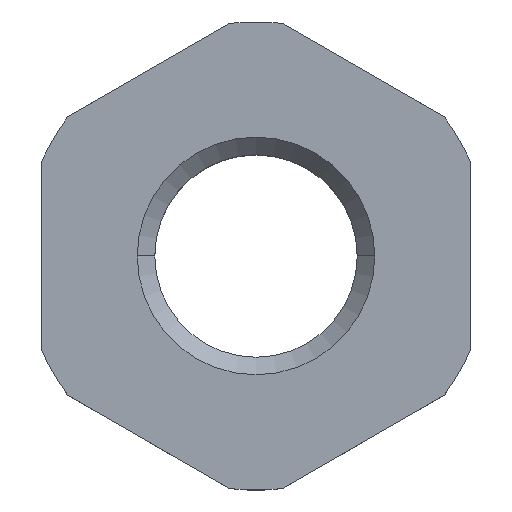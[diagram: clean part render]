
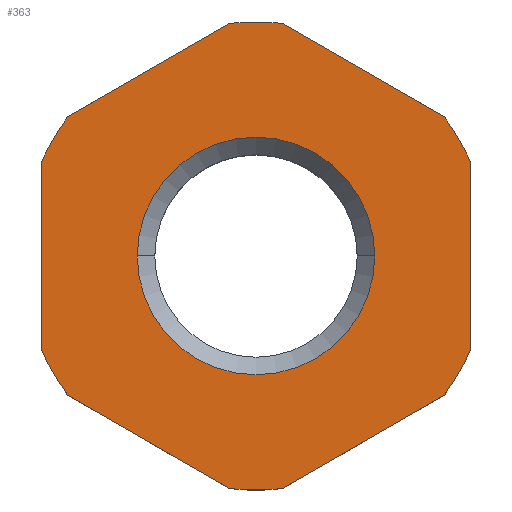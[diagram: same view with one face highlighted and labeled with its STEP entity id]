
A CAD part, top view. The second image highlights one B-rep face of the part: STEP entity #363.
In plain terms, the highlighted planar face has unit normal (0, 0, 1).
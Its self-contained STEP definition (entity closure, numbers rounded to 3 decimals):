
#1 = EDGE_CURVE ( 'NONE', #4, #362, #817, .T. ) ;
#3 = ORIENTED_EDGE ( 'NONE', *, *, #1, .T. ) ;
#4 = VERTEX_POINT ( 'NONE', #811 ) ;
#5 = ORIENTED_EDGE ( 'NONE', *, *, #162, .T. ) ;
#6 = ORIENTED_EDGE ( 'NONE', *, *, #159, .T. ) ;
#10 = VERTEX_POINT ( 'NONE', #804 ) ;
#15 = EDGE_CURVE ( 'NONE', #362, #193, #733, .T. ) ;
#16 = ORIENTED_EDGE ( 'NONE', *, *, #15, .T. ) ;
#17 = EDGE_CURVE ( 'NONE', #193, #194, #729, .T. ) ;
#19 = EDGE_CURVE ( 'NONE', #61, #28, #724, .T. ) ;
#21 = ORIENTED_EDGE ( 'NONE', *, *, #19, .T. ) ;
#27 = EDGE_CURVE ( 'NONE', #28, #61, #711, .T. ) ;
#28 = VERTEX_POINT ( 'NONE', #706 ) ;
#38 = VERTEX_POINT ( 'NONE', #943 ) ;
#44 = EDGE_CURVE ( 'NONE', #53, #38, #896, .T. ) ;
#53 = VERTEX_POINT ( 'NONE', #881 ) ;
#61 = VERTEX_POINT ( 'NONE', #905 ) ;
#142 = EDGE_LOOP ( 'NONE', ( #324, #21 ) ) ;
#153 = ORIENTED_EDGE ( 'NONE', *, *, #272, .T. ) ;
#156 = ORIENTED_EDGE ( 'NONE', *, *, #157, .T. ) ;
#157 = EDGE_CURVE ( 'NONE', #38, #352, #1985, .T. ) ;
#158 = VERTEX_POINT ( 'NONE', #1980 ) ;
#159 = EDGE_CURVE ( 'NONE', #10, #358, #1979, .T. ) ;
#161 = EDGE_CURVE ( 'NONE', #352, #158, #1975, .T. ) ;
#162 = EDGE_CURVE ( 'NONE', #358, #361, #1971, .T. ) ;
#193 = VERTEX_POINT ( 'NONE', #2034 ) ;
#194 = VERTEX_POINT ( 'NONE', #2033 ) ;
#264 = ORIENTED_EDGE ( 'NONE', *, *, #17, .T. ) ;
#265 = ORIENTED_EDGE ( 'NONE', *, *, #266, .T. ) ;
#266 = EDGE_CURVE ( 'NONE', #194, #268, #998, .T. ) ;
#267 = ORIENTED_EDGE ( 'NONE', *, *, #161, .T. ) ;
#268 = VERTEX_POINT ( 'NONE', #994 ) ;
#272 = EDGE_CURVE ( 'NONE', #268, #53, #1082, .T. ) ;
#324 = ORIENTED_EDGE ( 'NONE', *, *, #27, .T. ) ;
#327 = ORIENTED_EDGE ( 'NONE', *, *, #328, .T. ) ;
#328 = EDGE_CURVE ( 'NONE', #158, #10, #1097, .T. ) ;
#351 = ORIENTED_EDGE ( 'NONE', *, *, #44, .T. ) ;
#352 = VERTEX_POINT ( 'NONE', #1203 ) ;
#355 = ORIENTED_EDGE ( 'NONE', *, *, #356, .T. ) ;
#356 = EDGE_CURVE ( 'NONE', #361, #4, #1189, .T. ) ;
#358 = VERTEX_POINT ( 'NONE', #1181 ) ;
#360 = EDGE_LOOP ( 'NONE', ( #6, #5, #355, #3, #16, #264, #265, #153, #351, #156, #267, #327 ) ) ;
#361 = VERTEX_POINT ( 'NONE', #1180 ) ;
#362 = VERTEX_POINT ( 'NONE', #1179 ) ;
#363 = ADVANCED_FACE ( 'NONE', ( #1178, #1177 ), #1051, .F. ) ;
#706 = CARTESIAN_POINT ( 'NONE',  ( 6.088, 0., 0. ) ) ;
#707 = DIRECTION ( 'NONE',  ( -1., 0., 0. ) ) ;
#708 = DIRECTION ( 'NONE',  ( 0., 0., -1. ) ) ;
#709 = CARTESIAN_POINT ( 'NONE',  ( 0., 0., 0. ) ) ;
#710 = AXIS2_PLACEMENT_3D ( 'NONE', #709, #708, #707 ) ;
#711 = CIRCLE ( 'NONE', #710, 6.088 ) ;
#720 = DIRECTION ( 'NONE',  ( -1., 0., 0. ) ) ;
#721 = DIRECTION ( 'NONE',  ( 0., 0., -1. ) ) ;
#722 = CARTESIAN_POINT ( 'NONE',  ( 0., 0., 0. ) ) ;
#723 = AXIS2_PLACEMENT_3D ( 'NONE', #722, #721, #720 ) ;
#724 = CIRCLE ( 'NONE', #723, 6.088 ) ;
#725 = DIRECTION ( 'NONE',  ( 1., 0., 0. ) ) ;
#726 = DIRECTION ( 'NONE',  ( 0., 0., 1. ) ) ;
#727 = CARTESIAN_POINT ( 'NONE',  ( 0., 0., 0. ) ) ;
#728 = AXIS2_PLACEMENT_3D ( 'NONE', #727, #726, #725 ) ;
#729 = CIRCLE ( 'NONE', #728, 12. ) ;
#730 = DIRECTION ( 'NONE',  ( 0.866, -0.5, 0. ) ) ;
#731 = VECTOR ( 'NONE', #730, 1000. ) ;
#732 = CARTESIAN_POINT ( 'NONE',  ( -11., -6.351, 0. ) ) ;
#733 = LINE ( 'NONE', #732, #731 ) ;
#804 = CARTESIAN_POINT ( 'NONE',  ( -1.347, 11.924, 0. ) ) ;
#811 = CARTESIAN_POINT ( 'NONE',  ( -11., -4.796, 0. ) ) ;
#813 = DIRECTION ( 'NONE',  ( 1., 0., 0. ) ) ;
#814 = DIRECTION ( 'NONE',  ( 0., 0., 1. ) ) ;
#815 = CARTESIAN_POINT ( 'NONE',  ( 0., 0., 0. ) ) ;
#816 = AXIS2_PLACEMENT_3D ( 'NONE', #815, #814, #813 ) ;
#817 = CIRCLE ( 'NONE', #816, 12. ) ;
#881 = CARTESIAN_POINT ( 'NONE',  ( 11., -4.796, 0. ) ) ;
#893 = DIRECTION ( 'NONE',  ( 0., 1., 0. ) ) ;
#894 = VECTOR ( 'NONE', #893, 1000. ) ;
#895 = CARTESIAN_POINT ( 'NONE',  ( 11., -6.351, 0. ) ) ;
#896 = LINE ( 'NONE', #895, #894 ) ;
#905 = CARTESIAN_POINT ( 'NONE',  ( -6.088, 0., 0. ) ) ;
#943 = CARTESIAN_POINT ( 'NONE',  ( 11., 4.796, 0. ) ) ;
#994 = CARTESIAN_POINT ( 'NONE',  ( 9.653, -7.128, 0. ) ) ;
#995 = DIRECTION ( 'NONE',  ( 0.866, 0.5, 0. ) ) ;
#996 = VECTOR ( 'NONE', #995, 1000. ) ;
#997 = CARTESIAN_POINT ( 'NONE',  ( 0., -12.702, 0. ) ) ;
#998 = LINE ( 'NONE', #997, #996 ) ;
#1047 = DIRECTION ( 'NONE',  ( -1., 0., 0. ) ) ;
#1048 = DIRECTION ( 'NONE',  ( 0., 0., -1. ) ) ;
#1049 = CARTESIAN_POINT ( 'NONE',  ( 0., 0., 0. ) ) ;
#1050 = AXIS2_PLACEMENT_3D ( 'NONE', #1049, #1048, #1047 ) ;
#1051 = PLANE ( 'NONE',  #1050 ) ;
#1076 = DIRECTION ( 'NONE',  ( 1., 0., 0. ) ) ;
#1077 = DIRECTION ( 'NONE',  ( 0., 0., 1. ) ) ;
#1078 = CARTESIAN_POINT ( 'NONE',  ( 0., 0., 0. ) ) ;
#1079 = AXIS2_PLACEMENT_3D ( 'NONE', #1078, #1077, #1076 ) ;
#1082 = CIRCLE ( 'NONE', #1079, 12. ) ;
#1094 = DIRECTION ( 'NONE',  ( 1., 0., 0. ) ) ;
#1095 = DIRECTION ( 'NONE',  ( 0., 0., 1. ) ) ;
#1096 = AXIS2_PLACEMENT_3D ( 'NONE', #1103, #1095, #1094 ) ;
#1097 = CIRCLE ( 'NONE', #1096, 12. ) ;
#1103 = CARTESIAN_POINT ( 'NONE',  ( 0., 0., 0. ) ) ;
#1177 = FACE_OUTER_BOUND ( 'NONE', #360, .T. ) ;
#1178 = FACE_BOUND ( 'NONE', #142, .T. ) ;
#1179 = CARTESIAN_POINT ( 'NONE',  ( -9.653, -7.128, 0. ) ) ;
#1180 = CARTESIAN_POINT ( 'NONE',  ( -11., 4.796, 0. ) ) ;
#1181 = CARTESIAN_POINT ( 'NONE',  ( -9.653, 7.128, 0. ) ) ;
#1186 = DIRECTION ( 'NONE',  ( 0., -1., 0. ) ) ;
#1187 = VECTOR ( 'NONE', #1186, 1000. ) ;
#1188 = CARTESIAN_POINT ( 'NONE',  ( -11., 6.351, 0. ) ) ;
#1189 = LINE ( 'NONE', #1188, #1187 ) ;
#1203 = CARTESIAN_POINT ( 'NONE',  ( 9.653, 7.128, 0. ) ) ;
#1967 = DIRECTION ( 'NONE',  ( 1., 0., 0. ) ) ;
#1968 = DIRECTION ( 'NONE',  ( 0., 0., 1. ) ) ;
#1969 = CARTESIAN_POINT ( 'NONE',  ( 0., 0., 0. ) ) ;
#1970 = AXIS2_PLACEMENT_3D ( 'NONE', #1969, #1968, #1967 ) ;
#1971 = CIRCLE ( 'NONE', #1970, 12. ) ;
#1972 = DIRECTION ( 'NONE',  ( -0.866, 0.5, 0. ) ) ;
#1973 = VECTOR ( 'NONE', #1972, 1000. ) ;
#1974 = CARTESIAN_POINT ( 'NONE',  ( 11., 6.351, 0. ) ) ;
#1975 = LINE ( 'NONE', #1974, #1973 ) ;
#1976 = DIRECTION ( 'NONE',  ( -0.866, -0.5, 0. ) ) ;
#1977 = VECTOR ( 'NONE', #1976, 1000. ) ;
#1978 = CARTESIAN_POINT ( 'NONE',  ( 0., 12.702, 0. ) ) ;
#1979 = LINE ( 'NONE', #1978, #1977 ) ;
#1980 = CARTESIAN_POINT ( 'NONE',  ( 1.347, 11.924, 0. ) ) ;
#1981 = DIRECTION ( 'NONE',  ( 1., 0., 0. ) ) ;
#1982 = DIRECTION ( 'NONE',  ( 0., 0., 1. ) ) ;
#1983 = CARTESIAN_POINT ( 'NONE',  ( 0., 0., 0. ) ) ;
#1984 = AXIS2_PLACEMENT_3D ( 'NONE', #1983, #1982, #1981 ) ;
#1985 = CIRCLE ( 'NONE', #1984, 12. ) ;
#2033 = CARTESIAN_POINT ( 'NONE',  ( 1.347, -11.924, 0. ) ) ;
#2034 = CARTESIAN_POINT ( 'NONE',  ( -1.347, -11.924, 0. ) ) ;
